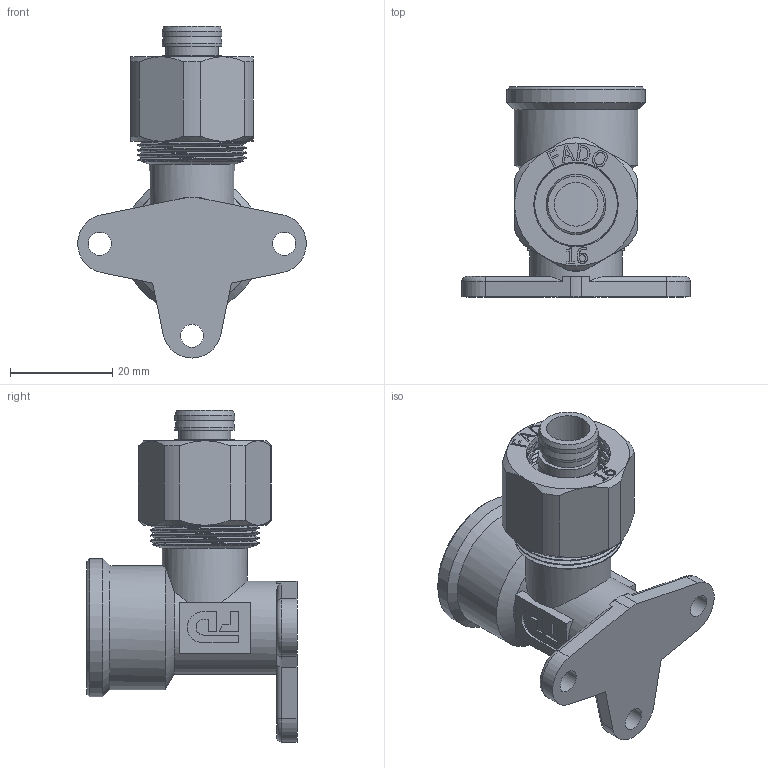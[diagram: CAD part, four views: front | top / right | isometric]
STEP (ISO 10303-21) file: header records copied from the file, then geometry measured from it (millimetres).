
FILE_DESCRIPTION(/* description */ (''),/* implementation_level */ '2;1');
FILE_NAME(/* name */ 'C:\Users\Doom\Desktop\Фадотех\Обжим\RFU30 16X12F 21.08.2020\RFU30 16X12F 21.08.2020.stp',/* time_stamp */ '2022-06-01T17:28:15+03:00',/* author */ ('Doom'),/* organization */ (''),/* preprocessor_version */ 'ST-DEVELOPER v18',/* originating_system */ 'Autodesk Inventor 2020',/* authorisation */ '');
FILE_SCHEMA (('AUTOMOTIVE_DESIGN { 1 0 10303 214 3 1 1 }'));
Products named in the file (5): RFU30 16X12F 21.08.2020; RFU30 16X12F 21.08.2020_1; FADO MC Nut-16 15.02.2020; FADO MC Socket-16 15.02.2020; Olive 16 15.02.2020
Assembly tree (4 placements, depth 2):
  RFU30 16X12F 21.08.2020
    RFU30 16X12F 21.08.2020_1
    FADO MC Nut-16 15.02.2020
    FADO MC Socket-16 15.02.2020
    Olive 16 15.02.2020
Bounding box: 44.62 x 41 x 64.81 mm (x, y, z)
Volume: 17452.8 mm3; surface area: 21849.7 mm2
Topology: 7 solids, 7 shells, 601 faces, 1646 edges, 1098 vertices
Faces by surface type: bspline 260, plane 193, cylinder 111, cone 33, torus 4
Full cylindrical faces by diameter (mm): 4.5 x3, 8.5 x1, 10.2 x2, 11.7 x5, 12.6 x1, 13.5 x1, 14.7 x2, 15.5 x1, 16.5 x1, 16.6 x1, 18.2 x1, 18.26 x9, 19 x1, 19.5 x1, 19.74 x2, 19.867 x12, 20.95 x2, 21.223 x10, 21.35 x2, 24.2 x1, 27 x1
Entity records: 38131 total; most frequent: CARTESIAN_POINT 24458, ORIENTED_EDGE 3274, DIRECTION 2000, EDGE_CURVE 1637, VERTEX_POINT 1094, LINE 684, VECTOR 684, EDGE_LOOP 663
